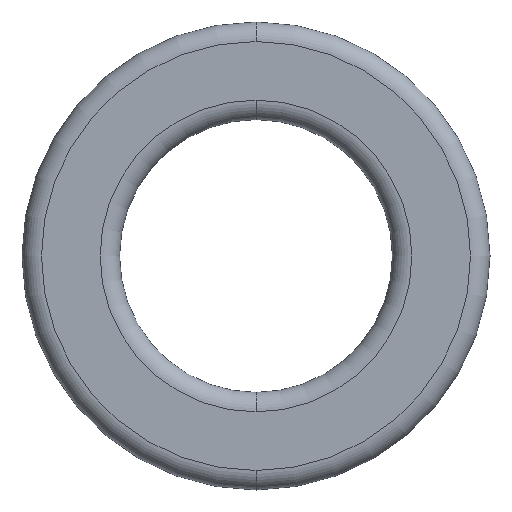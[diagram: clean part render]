
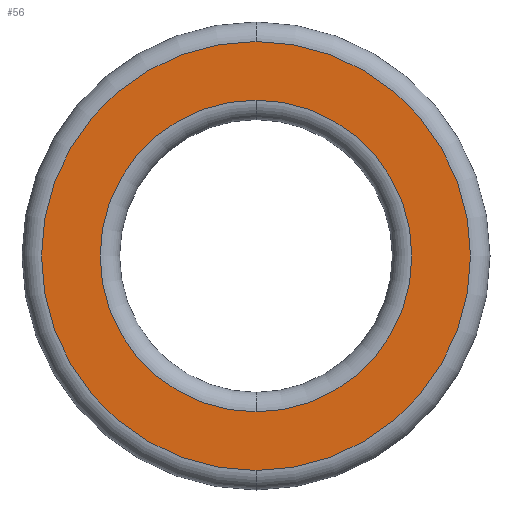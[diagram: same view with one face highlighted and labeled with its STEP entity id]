
A CAD part, front view. The second image highlights one B-rep face of the part: STEP entity #56.
In plain terms, the highlighted planar face has unit normal (0, -1, 0).
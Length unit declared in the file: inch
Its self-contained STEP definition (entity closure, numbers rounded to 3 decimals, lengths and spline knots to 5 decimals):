
#3 = VERTEX_POINT ( 'NONE', #202 ) ;
#11 = CIRCLE ( 'NONE', #232, 0.8 ) ;
#14 = VERTEX_POINT ( 'NONE', #374 ) ;
#22 = CARTESIAN_POINT ( 'NONE',  ( 0., 0., 0. ) ) ;
#40 = CARTESIAN_POINT ( 'NONE',  ( 0., 0., 0. ) ) ;
#43 = EDGE_LOOP ( 'NONE', ( #236, #330 ) ) ;
#51 = DIRECTION ( 'NONE',  ( 0., 0., 1. ) ) ;
#56 = ADVANCED_FACE ( 'NONE', ( #149, #399 ), #201, .F. ) ;
#63 = EDGE_CURVE ( 'NONE', #14, #227, #297, .T. ) ;
#72 = CIRCLE ( 'NONE', #369, 1.101 ) ;
#119 = DIRECTION ( 'NONE',  ( 0., 0., 1. ) ) ;
#127 = ORIENTED_EDGE ( 'NONE', *, *, #365, .T. ) ;
#149 = FACE_BOUND ( 'NONE', #43, .T. ) ;
#158 = EDGE_LOOP ( 'NONE', ( #127, #295 ) ) ;
#179 = AXIS2_PLACEMENT_3D ( 'NONE', #22, #269, #288 ) ;
#181 = DIRECTION ( 'NONE',  ( 0., -1., 0. ) ) ;
#183 = CARTESIAN_POINT ( 'NONE',  ( 0., 0., 1.101 ) ) ;
#201 = PLANE ( 'NONE',  #211 ) ;
#202 = CARTESIAN_POINT ( 'NONE',  ( 0., 0., -1.101 ) ) ;
#207 = EDGE_CURVE ( 'NONE', #227, #14, #11, .T. ) ;
#211 = AXIS2_PLACEMENT_3D ( 'NONE', #437, #337, #446 ) ;
#227 = VERTEX_POINT ( 'NONE', #242 ) ;
#232 = AXIS2_PLACEMENT_3D ( 'NONE', #420, #379, #460 ) ;
#233 = CIRCLE ( 'NONE', #410, 1.101 ) ;
#236 = ORIENTED_EDGE ( 'NONE', *, *, #63, .T. ) ;
#242 = CARTESIAN_POINT ( 'NONE',  ( 0., 0., -0.8 ) ) ;
#249 = DIRECTION ( 'NONE',  ( 0., -1., 0. ) ) ;
#269 = DIRECTION ( 'NONE',  ( 0., 1., 0. ) ) ;
#282 = EDGE_CURVE ( 'NONE', #3, #362, #72, .T. ) ;
#288 = DIRECTION ( 'NONE',  ( 0., 0., 1. ) ) ;
#295 = ORIENTED_EDGE ( 'NONE', *, *, #282, .T. ) ;
#297 = CIRCLE ( 'NONE', #179, 0.8 ) ;
#330 = ORIENTED_EDGE ( 'NONE', *, *, #207, .T. ) ;
#337 = DIRECTION ( 'NONE',  ( 0., 1., 0. ) ) ;
#362 = VERTEX_POINT ( 'NONE', #183 ) ;
#365 = EDGE_CURVE ( 'NONE', #362, #3, #233, .T. ) ;
#369 = AXIS2_PLACEMENT_3D ( 'NONE', #400, #181, #119 ) ;
#374 = CARTESIAN_POINT ( 'NONE',  ( 0., 0., 0.8 ) ) ;
#379 = DIRECTION ( 'NONE',  ( 0., 1., 0. ) ) ;
#399 = FACE_OUTER_BOUND ( 'NONE', #158, .T. ) ;
#400 = CARTESIAN_POINT ( 'NONE',  ( 0., 0., 0. ) ) ;
#410 = AXIS2_PLACEMENT_3D ( 'NONE', #40, #249, #51 ) ;
#420 = CARTESIAN_POINT ( 'NONE',  ( 0., 0., 0. ) ) ;
#437 = CARTESIAN_POINT ( 'NONE',  ( 0., 0., 0. ) ) ;
#446 = DIRECTION ( 'NONE',  ( 0., 0., 1. ) ) ;
#460 = DIRECTION ( 'NONE',  ( 0., 0., 1. ) ) ;
